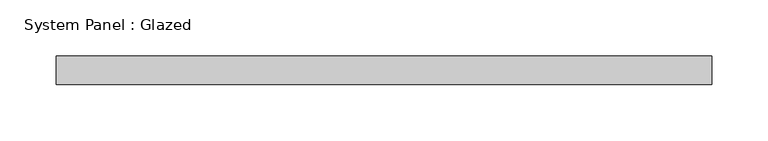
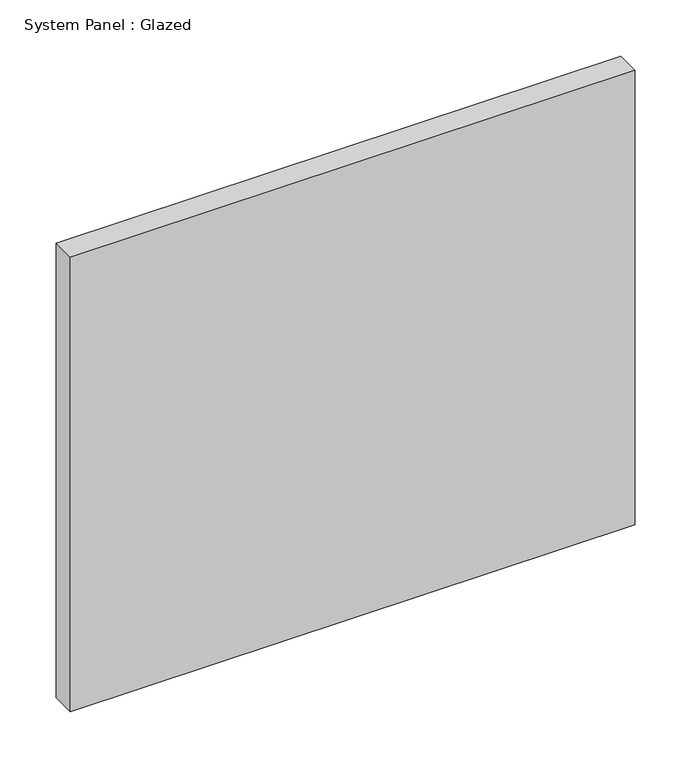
"""IFC4 building model written with IfcOpenShell, lengths in millimetres: plate geometry, System Panel : Glazed."""

from ifc_helpers import new_model, si_unit, origin, origin_with_axes, place, context, project, spatial, polyline, outline, extrude, source, transform, mapped, element, save


def system_panel_glazed_f2669b12(model_context):
    return source(origin(), model_context, "Body", "SweptSolid", [
        extrude(outline(polyline([(291.0985932, -12.7), (-291.0985932, -12.7), (-291.0985932, 12.7), (291.0985932, 12.7), (291.0985932, -12.7)])), origin_with_axes(), (0.0, 0.0, 1.0), 495.3),
    ])


if __name__ == "__main__":
    model = new_model("IFC4")
    model_context = context("Model", 3, world=origin())
    ifc_project = project(units=[si_unit("LENGTHUNIT", "METRE", prefix="MILLI")], contexts=[model_context])
    site = spatial("IfcSite", under=ifc_project)
    building = spatial("IfcBuilding", under=site)
    placement = place(None, origin())
    system_panel_glazed_shape = system_panel_glazed_f2669b12(model_context)
    element("IfcPlate", 1, ObjectType="System Panel : Glazed", at=placement, inside=building, context=model_context, shape_type="MappedRepresentation", body=[
        mapped(system_panel_glazed_shape, transform((0.0, 0.0, 0.0), x_axis=(1.0, 0.0, 0.0), y_axis=(0.0, 1.0, 0.0), z_axis=(0.0, 0.0, 1.0))),
    ])
    save(model, "model.ifc")
